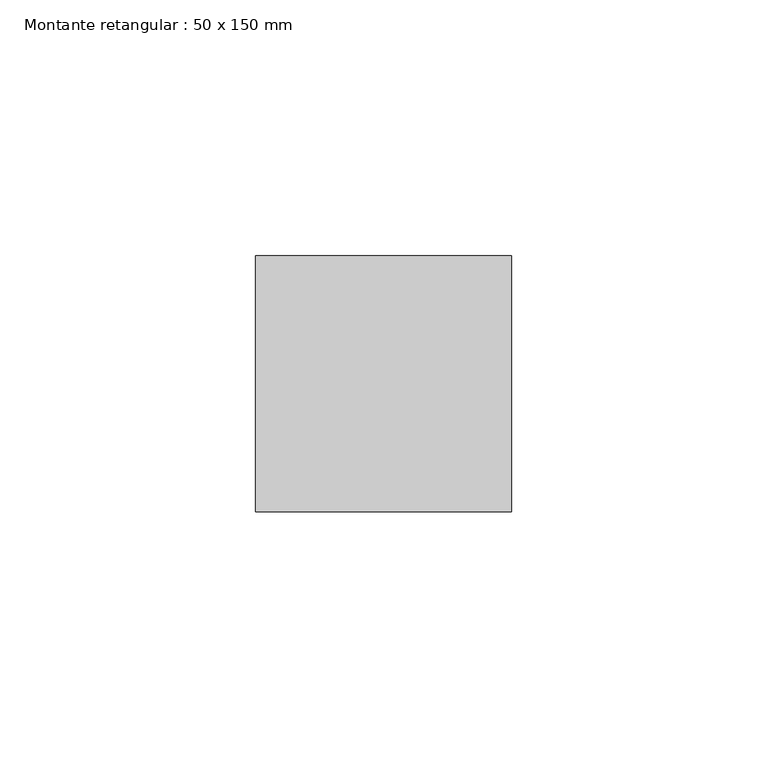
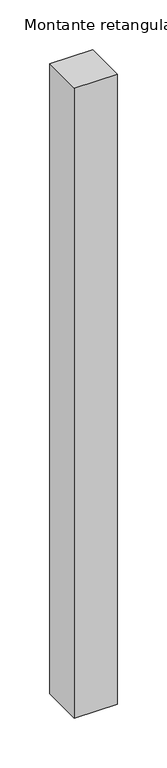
"""IFC4 building model written with IfcOpenShell, lengths in millimetres: member geometry, Montante retangular : 50 x 150 mm."""

from ifc_helpers import new_model, si_unit, frame, origin, place, context, project, spatial, polyline, outline, extrude, source, transform, mapped, element, save


def montante_retangular_50_x_150_mm_d27d1995(model_context):
    return source(origin(), model_context, "Body", "SweptSolid", [
        extrude(outline(polyline([(0.0, 25.0), (0.0, -25.0), (-50.0, -25.0), (-50.0, 25.0), (0.0, 25.0)])), frame((0.0, 0.0, -775.0), z_axis=(0.0, 0.0, 1.0), x_axis=(1.0, 0.0, 0.0)), (0.0, 0.0, 1.0), 775.0),
    ])


if __name__ == "__main__":
    model = new_model("IFC4")
    model_context = context("Model", 3, world=origin())
    ifc_project = project(units=[si_unit("LENGTHUNIT", "METRE", prefix="MILLI")], contexts=[model_context])
    site = spatial("IfcSite", under=ifc_project)
    building = spatial("IfcBuilding", under=site)
    placement = place(None, origin())
    montante_retangular_50_x_150_mm_shape = montante_retangular_50_x_150_mm_d27d1995(model_context)
    element("IfcMember", 1, ObjectType="Montante retangular : 50 x 150 mm", at=placement, inside=building, context=model_context, shape_type="MappedRepresentation", body=[
        mapped(montante_retangular_50_x_150_mm_shape, transform((0.0, 0.0, 0.0), x_axis=(1.0, 0.0, 0.0), y_axis=(0.0, 1.0, 0.0), z_axis=(0.0, 0.0, 1.0))),
    ])
    save(model, "model.ifc")
